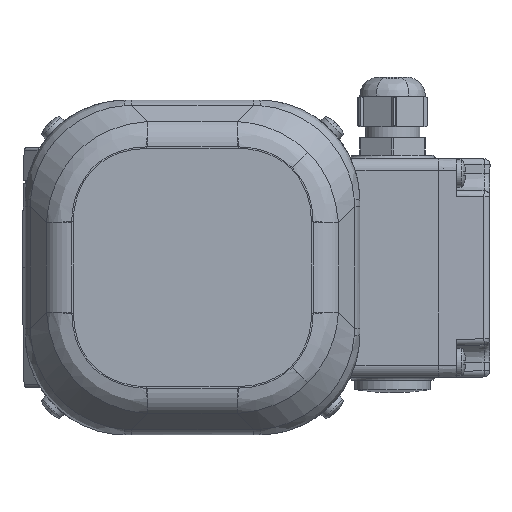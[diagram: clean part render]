
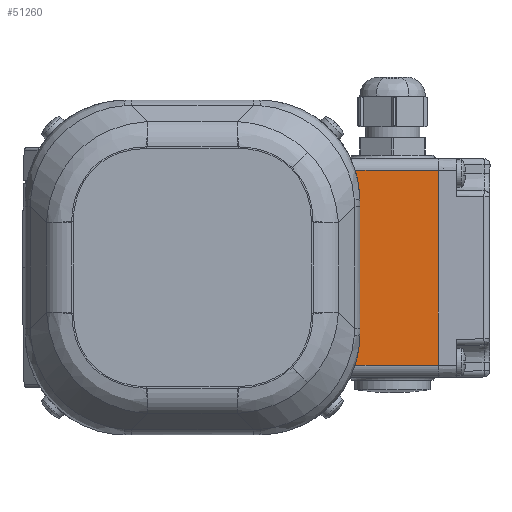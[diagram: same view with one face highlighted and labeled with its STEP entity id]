
A CAD part, left-side view. The second image highlights one B-rep face of the part: STEP entity #51260.
In plain terms, the highlighted planar face has unit normal (-1, 0, 0).
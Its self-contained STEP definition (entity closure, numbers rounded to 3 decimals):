
#1646 = ORIENTED_EDGE ( 'NONE', *, *, #20917, .F. ) ;
#2108 = VECTOR ( 'NONE', #5797, 1000. ) ;
#3076 = AXIS2_PLACEMENT_3D ( 'NONE', #23021, #18448, #47135 ) ;
#5797 = DIRECTION ( 'NONE',  ( 0., 1., 0. ) ) ;
#5943 = LINE ( 'NONE', #21173, #29055 ) ;
#5990 = CARTESIAN_POINT ( 'NONE',  ( -34., -32., 0. ) ) ;
#12033 = DIRECTION ( 'NONE',  ( 0., 1., 0. ) ) ;
#12178 = EDGE_CURVE ( 'NONE', #39440, #39737, #37385, .T. ) ;
#14700 = DIRECTION ( 'NONE',  ( 0., 0., 1. ) ) ;
#17527 = LINE ( 'NONE', #25847, #2108 ) ;
#17587 = VECTOR ( 'NONE', #14700, 1000. ) ;
#18448 = DIRECTION ( 'NONE',  ( 1., 0., 0. ) ) ;
#19621 = VERTEX_POINT ( 'NONE', #47276 ) ;
#20917 = EDGE_CURVE ( 'NONE', #19621, #39737, #5943, .T. ) ;
#21173 = CARTESIAN_POINT ( 'NONE',  ( -34., 32., -15. ) ) ;
#21731 = VECTOR ( 'NONE', #12033, 1000. ) ;
#23021 = CARTESIAN_POINT ( 'NONE',  ( -34., -32., 0. ) ) ;
#25847 = CARTESIAN_POINT ( 'NONE',  ( -34., 0., -30. ) ) ;
#29055 = VECTOR ( 'NONE', #30549, 1000. ) ;
#29581 = EDGE_LOOP ( 'NONE', ( #37725, #43996, #36822, #1646 ) ) ;
#29980 = EDGE_CURVE ( 'NONE', #48813, #19621, #17527, .T. ) ;
#30549 = DIRECTION ( 'NONE',  ( 0., 0., 1. ) ) ;
#32415 = CARTESIAN_POINT ( 'NONE',  ( -34., 0., 0. ) ) ;
#35075 = LINE ( 'NONE', #51412, #17587 ) ;
#36822 = ORIENTED_EDGE ( 'NONE', *, *, #12178, .T. ) ;
#37385 = LINE ( 'NONE', #32415, #21731 ) ;
#37725 = ORIENTED_EDGE ( 'NONE', *, *, #29980, .F. ) ;
#39440 = VERTEX_POINT ( 'NONE', #5990 ) ;
#39737 = VERTEX_POINT ( 'NONE', #45819 ) ;
#39837 = EDGE_CURVE ( 'NONE', #48813, #39440, #35075, .T. ) ;
#43996 = ORIENTED_EDGE ( 'NONE', *, *, #39837, .T. ) ;
#45819 = CARTESIAN_POINT ( 'NONE',  ( -34., 32., 0. ) ) ;
#46017 = CARTESIAN_POINT ( 'NONE',  ( -34., -32., -30. ) ) ;
#46332 = FACE_OUTER_BOUND ( 'NONE', #29581, .T. ) ;
#47135 = DIRECTION ( 'NONE',  ( 0., 0., -1. ) ) ;
#47276 = CARTESIAN_POINT ( 'NONE',  ( -34., 32., -30. ) ) ;
#48813 = VERTEX_POINT ( 'NONE', #46017 ) ;
#51260 = ADVANCED_FACE ( 'NONE', ( #46332 ), #51401, .F. ) ;
#51401 = PLANE ( 'NONE',  #3076 ) ;
#51412 = CARTESIAN_POINT ( 'NONE',  ( -34., -32., -15. ) ) ;
